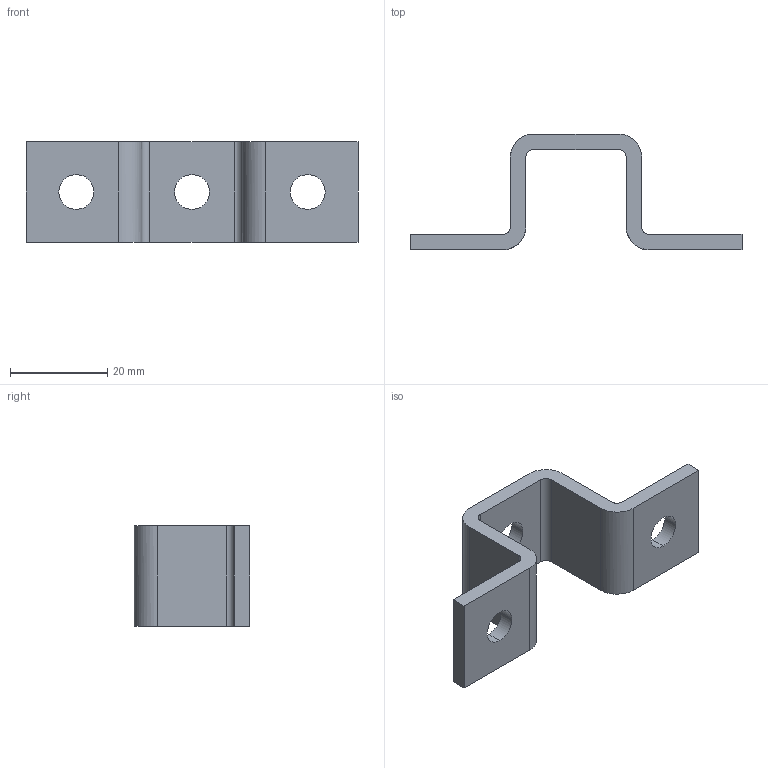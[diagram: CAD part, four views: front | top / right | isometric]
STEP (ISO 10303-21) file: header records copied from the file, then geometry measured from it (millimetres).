
FILE_DESCRIPTION(('TurboCAD Mac Pro'),'Build 980');
FILE_NAME('P6047.stp',' ',(''),(''),'ACIS Interop','IMSI','TurboCAD Mac Pro BY IMSI, INCORPORATED');
FILE_SCHEMA(('automotive_design'));
Length unit declared in the file: inch
Products named in the file (1): 1
Bounding box: 68.19 x 23.79 x 20.64 mm (x, y, z)
Volume: 6425.8 mm3; surface area: 5055.7 mm2
Topology: 1 solids, 1 shells, 34 faces, 96 edges, 64 vertices
Faces by surface type: bspline 20, plane 14
Entity records: 1508 total; most frequent: CARTESIAN_POINT 455, ORIENTED_EDGE 192, EDGE_CURVE 96, DIRECTION 86, VERTEX_POINT 64, LINE 56, VECTOR 56, EDGE_LOOP 40
